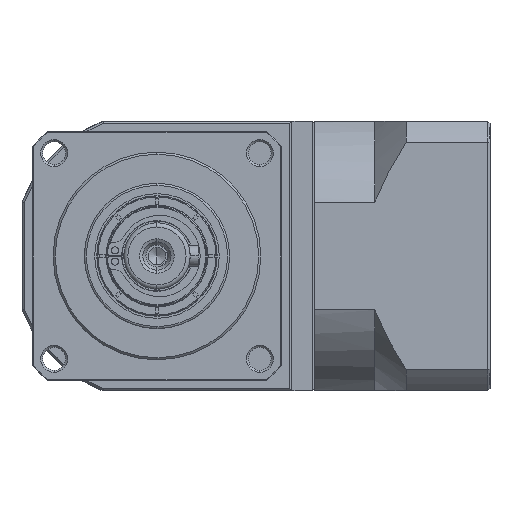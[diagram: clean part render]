
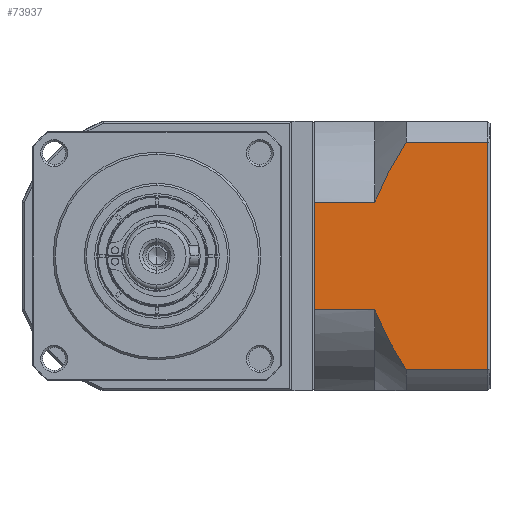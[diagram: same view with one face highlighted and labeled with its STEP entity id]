
A CAD part, left-side view. The second image highlights one B-rep face of the part: STEP entity #73937.
In plain terms, the highlighted planar face has unit normal (-1, 0, 0).
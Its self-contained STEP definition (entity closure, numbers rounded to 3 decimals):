
#322 = CARTESIAN_POINT ( 'NONE',  ( -16.287, -54.923, -150.928 ) ) ;
#686 = EDGE_CURVE ( 'NONE', #139445, #104334, #15480, .T. ) ;
#5884 = EDGE_CURVE ( 'NONE', #107413, #104334, #47954, .T. ) ;
#5916 = CARTESIAN_POINT ( 'NONE',  ( -16.287, -40.423, -156.042 ) ) ;
#7159 = AXIS2_PLACEMENT_3D ( 'NONE', #117551, #43487, #129945 ) ;
#8077 = FACE_OUTER_BOUND ( 'NONE', #91087, .T. ) ;
#8431 = CARTESIAN_POINT ( 'NONE',  ( -16.287, -54.923, -136.533 ) ) ;
#9807 = CARTESIAN_POINT ( 'NONE',  ( -16.287, -57.009, -105.562 ) ) ;
#15480 = B_SPLINE_CURVE_WITH_KNOTS ( 'NONE', 3,
 ( #71598, #46719, #108330, #158120, #83987, #9807, #96401, #22356 ),
 .UNSPECIFIED., .F., .F.,
 ( 4, 2, 2, 4 ),
 ( 0.058, 0.062, 0.066, 0.074 ),
 .UNSPECIFIED. ) ;
#15968 = LINE ( 'NONE', #109726, #143792 ) ;
#17996 = VECTOR ( 'NONE', #50115, 1000. ) ;
#19005 = VECTOR ( 'NONE', #92614, 1000. ) ;
#19675 = CARTESIAN_POINT ( 'NONE',  ( -16.287, -54.923, -110.552 ) ) ;
#20386 = ORIENTED_EDGE ( 'NONE', *, *, #686, .T. ) ;
#20970 = CARTESIAN_POINT ( 'NONE',  ( -16.287, -56.213, -139.699 ) ) ;
#22356 = CARTESIAN_POINT ( 'NONE',  ( -16.287, -54.923, -110.552 ) ) ;
#29596 = ORIENTED_EDGE ( 'NONE', *, *, #58409, .T. ) ;
#33442 = CARTESIAN_POINT ( 'NONE',  ( -16.287, -57.668, -142.765 ) ) ;
#35075 = CARTESIAN_POINT ( 'NONE',  ( -16.287, -62.423, -96.156 ) ) ;
#35375 = DIRECTION ( 'NONE',  ( 0., 0., 1. ) ) ;
#35443 = ORIENTED_EDGE ( 'NONE', *, *, #100077, .F. ) ;
#36284 = VERTEX_POINT ( 'NONE', #44412 ) ;
#38703 = CARTESIAN_POINT ( 'NONE',  ( -16.287, -40.423, -110.552 ) ) ;
#43487 = DIRECTION ( 'NONE',  ( 1., 0., 0. ) ) ;
#44412 = CARTESIAN_POINT ( 'NONE',  ( -16.287, -82.123, -96.156 ) ) ;
#44593 = DIRECTION ( 'NONE',  ( 0., -1., 0. ) ) ;
#45874 = CARTESIAN_POINT ( 'NONE',  ( -16.287, -60.961, -148.66 ) ) ;
#46719 = CARTESIAN_POINT ( 'NONE',  ( -16.287, -61.689, -97.294 ) ) ;
#47954 = LINE ( 'NONE', #19675, #105927 ) ;
#50115 = DIRECTION ( 'NONE',  ( 0., 1., 0. ) ) ;
#55571 = B_SPLINE_CURVE_WITH_KNOTS ( 'NONE', 3,
 ( #8431, #156742, #56224, #95033, #20970, #107492, #33442, #119961, #45874, #132365 ),
 .UNSPECIFIED., .F., .F.,
 ( 4, 2, 2, 2, 4 ),
 ( 0.101, 0.103, 0.105, 0.109, 0.117 ),
 .UNSPECIFIED. ) ;
#55786 = ORIENTED_EDGE ( 'NONE', *, *, #5884, .F. ) ;
#56224 = CARTESIAN_POINT ( 'NONE',  ( -16.287, -55.413, -137.814 ) ) ;
#58409 = EDGE_CURVE ( 'NONE', #103377, #114695, #55571, .T. ) ;
#59635 = CARTESIAN_POINT ( 'NONE',  ( -16.287, -40.423, -136.533 ) ) ;
#60587 = DIRECTION ( 'NONE',  ( 0., -1., 0. ) ) ;
#60860 = VERTEX_POINT ( 'NONE', #83963 ) ;
#67753 = PLANE ( 'NONE',  #7159 ) ;
#71598 = CARTESIAN_POINT ( 'NONE',  ( -16.287, -62.423, -96.156 ) ) ;
#73504 = ORIENTED_EDGE ( 'NONE', *, *, #75139, .T. ) ;
#73937 = ADVANCED_FACE ( 'NONE', ( #8077 ), #67753, .F. ) ;
#74080 = CARTESIAN_POINT ( 'NONE',  ( -16.287, -62.423, -150.928 ) ) ;
#75139 = EDGE_CURVE ( 'NONE', #107413, #83594, #113835, .T. ) ;
#81466 = LINE ( 'NONE', #146832, #143459 ) ;
#83594 = VERTEX_POINT ( 'NONE', #59635 ) ;
#83963 = CARTESIAN_POINT ( 'NONE',  ( -16.287, -82.123, -150.928 ) ) ;
#83987 = CARTESIAN_POINT ( 'NONE',  ( -16.287, -58.919, -101.966 ) ) ;
#86483 = EDGE_CURVE ( 'NONE', #103377, #83594, #112842, .T. ) ;
#86989 = DIRECTION ( 'NONE',  ( 0., 1., 0. ) ) ;
#91087 = EDGE_LOOP ( 'NONE', ( #35443, #95628, #97920, #20386, #55786, #73504, #131806, #29596 ) ) ;
#92614 = DIRECTION ( 'NONE',  ( 0., 0., -1. ) ) ;
#93872 = VECTOR ( 'NONE', #86989, 1000. ) ;
#95033 = CARTESIAN_POINT ( 'NONE',  ( -16.287, -55.939, -139.075 ) ) ;
#95628 = ORIENTED_EDGE ( 'NONE', *, *, #114086, .T. ) ;
#96189 = CARTESIAN_POINT ( 'NONE',  ( -16.287, -54.923, -110.552 ) ) ;
#96401 = CARTESIAN_POINT ( 'NONE',  ( -16.287, -55.865, -108.014 ) ) ;
#97707 = LINE ( 'NONE', #322, #93872 ) ;
#97920 = ORIENTED_EDGE ( 'NONE', *, *, #119936, .F. ) ;
#100077 = EDGE_CURVE ( 'NONE', #60860, #114695, #97707, .T. ) ;
#103377 = VERTEX_POINT ( 'NONE', #134641 ) ;
#104334 = VERTEX_POINT ( 'NONE', #96189 ) ;
#105927 = VECTOR ( 'NONE', #44593, 1000. ) ;
#107413 = VERTEX_POINT ( 'NONE', #38703 ) ;
#107492 = CARTESIAN_POINT ( 'NONE',  ( -16.287, -57.063, -141.553 ) ) ;
#108330 = CARTESIAN_POINT ( 'NONE',  ( -16.287, -60.974, -98.445 ) ) ;
#109726 = CARTESIAN_POINT ( 'NONE',  ( -16.287, -54.923, -96.156 ) ) ;
#112246 = CARTESIAN_POINT ( 'NONE',  ( -16.287, -54.923, -136.533 ) ) ;
#112842 = LINE ( 'NONE', #112246, #17996 ) ;
#113835 = LINE ( 'NONE', #5916, #19005 ) ;
#114086 = EDGE_CURVE ( 'NONE', #60860, #36284, #81466, .T. ) ;
#114695 = VERTEX_POINT ( 'NONE', #74080 ) ;
#117551 = CARTESIAN_POINT ( 'NONE',  ( -16.287, -82.623, -156.042 ) ) ;
#119936 = EDGE_CURVE ( 'NONE', #139445, #36284, #15968, .T. ) ;
#119961 = CARTESIAN_POINT ( 'NONE',  ( -16.287, -59.573, -146.346 ) ) ;
#129945 = DIRECTION ( 'NONE',  ( 0., 1., 0. ) ) ;
#131806 = ORIENTED_EDGE ( 'NONE', *, *, #86483, .F. ) ;
#132365 = CARTESIAN_POINT ( 'NONE',  ( -16.287, -62.423, -150.928 ) ) ;
#134641 = CARTESIAN_POINT ( 'NONE',  ( -16.287, -54.923, -136.533 ) ) ;
#139445 = VERTEX_POINT ( 'NONE', #35075 ) ;
#143459 = VECTOR ( 'NONE', #35375, 1000. ) ;
#143792 = VECTOR ( 'NONE', #60587, 1000. ) ;
#146832 = CARTESIAN_POINT ( 'NONE',  ( -16.287, -82.123, -156.042 ) ) ;
#156742 = CARTESIAN_POINT ( 'NONE',  ( -16.287, -55.161, -137.175 ) ) ;
#158120 = CARTESIAN_POINT ( 'NONE',  ( -16.287, -59.59, -100.78 ) ) ;
